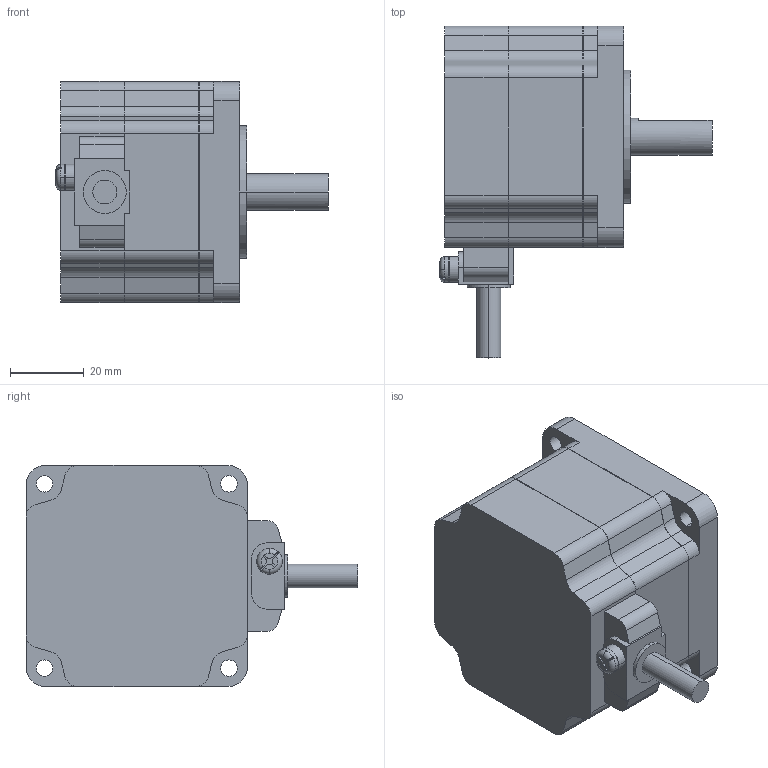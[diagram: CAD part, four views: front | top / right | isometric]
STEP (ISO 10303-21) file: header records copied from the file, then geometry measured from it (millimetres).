
FILE_DESCRIPTION( ( '' ), '1' );
FILE_NAME( '//expscmdclustefs.cadenas.external/client_exchange/iodir/jobs/output/wkb58558114_no0/STEP/RKS564ACD_1_2_03.stp', '2013-05-28T09:44:54', ( '' ), ( '' ), ' ', ' ', ' ' );
FILE_SCHEMA( ( 'CONFIG_CONTROL_DESIGN' ) );
Length unit declared in the file: millimetre
Products named in the file (1): 1
Bounding box: 73.8 x 90 x 60 mm (x, y, z)
Volume: 165353.1 mm3; surface area: 20333.9 mm2
Topology: 1 solids, 1 shells, 203 faces, 574 edges, 382 vertices
Faces by surface type: plane 105, cylinder 94, torus 4
Entity records: 6758 total; most frequent: CARTESIAN_POINT 1228, DIRECTION 1180, ORIENTED_EDGE 1148, EDGE_CURVE 574, AXIS2_PLACEMENT_3D 406, VERTEX_POINT 382, LINE 368, VECTOR 368
